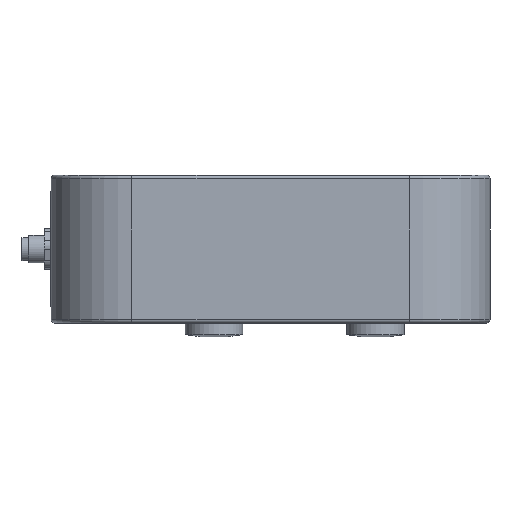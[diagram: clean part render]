
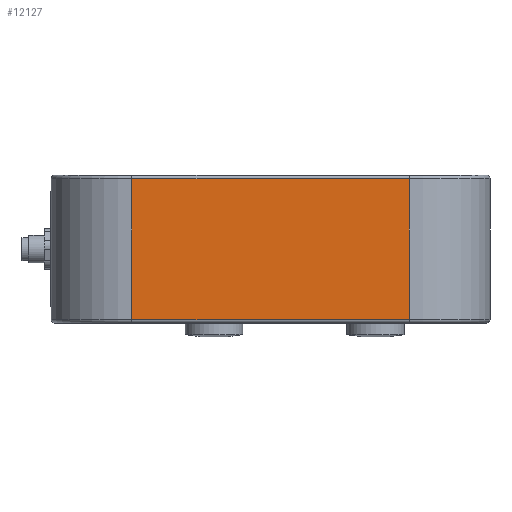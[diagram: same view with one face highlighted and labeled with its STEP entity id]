
A CAD part, left-side view. The second image highlights one B-rep face of the part: STEP entity #12127.
In plain terms, the highlighted planar face has unit normal (-1, 0, 0).
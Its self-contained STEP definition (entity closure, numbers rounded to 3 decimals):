
#11411=CARTESIAN_POINT('',(1.921,-36.886,1.5));
#11412=VERTEX_POINT('',#11411);
#11455=CARTESIAN_POINT('',(1.921,-156.886,1.5));
#11456=VERTEX_POINT('',#11455);
#11464=CARTESIAN_POINT('',(1.921,-156.886,1.5));
#11465=DIRECTION('',(0.0,1.0,0.0));
#11466=VECTOR('',#11465,120.);
#11467=LINE('',#11464,#11466);
#11468=EDGE_CURVE('',#11456,#11412,#11467,.T.);
#11765=CARTESIAN_POINT('',(1.921,-36.886,62.5));
#11766=VERTEX_POINT('',#11765);
#11767=CARTESIAN_POINT('',(1.921,-36.886,1.5));
#11768=DIRECTION('',(0.0,0.0,1.0));
#11769=VECTOR('',#11768,61.0);
#11770=LINE('',#11767,#11769);
#11771=EDGE_CURVE('',#11412,#11766,#11770,.T.);
#11838=CARTESIAN_POINT('',(1.921,-156.886,62.5));
#11839=VERTEX_POINT('',#11838);
#11864=CARTESIAN_POINT('',(1.921,-36.886,62.5));
#11865=DIRECTION('',(0.0,-1.0,0.0));
#11866=VECTOR('',#11865,120.);
#11867=LINE('',#11864,#11866);
#11868=EDGE_CURVE('',#11766,#11839,#11867,.T.);
#12107=CARTESIAN_POINT('',(1.921,-156.886,1.5));
#12108=DIRECTION('',(0.0,0.0,1.0));
#12109=VECTOR('',#12108,61.0);
#12110=LINE('',#12107,#12109);
#12111=EDGE_CURVE('',#11456,#11839,#12110,.T.);
#12116=CARTESIAN_POINT('',(1.921,-156.886,0.0));
#12117=DIRECTION('',(-1.0,0.0,0.0));
#12118=DIRECTION('',(0.0,0.0,1.0));
#12119=AXIS2_PLACEMENT_3D('',#12116,#12117,#12118);
#12120=PLANE('',#12119);
#12121=ORIENTED_EDGE('',*,*,#11468,.F.);
#12122=ORIENTED_EDGE('',*,*,#12111,.T.);
#12123=ORIENTED_EDGE('',*,*,#11868,.F.);
#12124=ORIENTED_EDGE('',*,*,#11771,.F.);
#12125=EDGE_LOOP('',(#12121,#12122,#12123,#12124));
#12126=FACE_OUTER_BOUND('',#12125,.T.);
#12127=ADVANCED_FACE('',(#12126),#12120,.T.);
